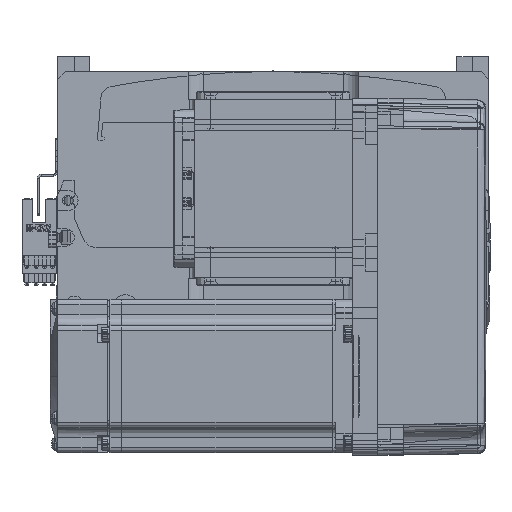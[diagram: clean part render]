
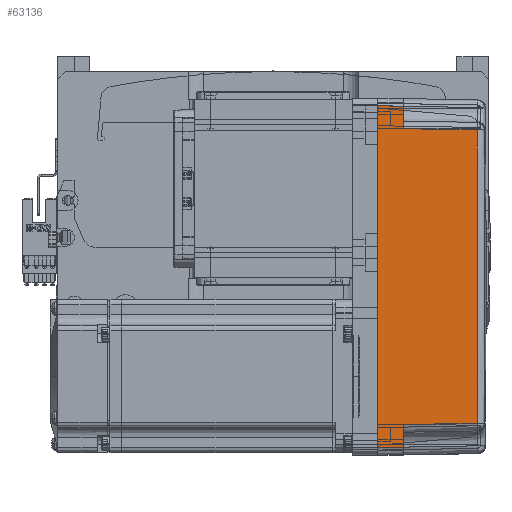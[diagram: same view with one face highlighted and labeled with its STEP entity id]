
A CAD part, top view. The second image highlights one B-rep face of the part: STEP entity #63136.
In plain terms, the highlighted planar face has unit normal (0.018, 0, 1) as drawn and (0, 1, 0.017) by its records, which use the part's own axes.
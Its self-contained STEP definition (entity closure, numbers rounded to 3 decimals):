
#444 = EDGE_CURVE ( 'NONE', #39464, #17093, #22523, .T. ) ;
#648 = CARTESIAN_POINT ( 'NONE',  ( -57.495, 35.32, 38.985 ) ) ;
#3036 = DIRECTION ( 'NONE',  ( -0.017, -0.017, 1. ) ) ;
#4314 = CARTESIAN_POINT ( 'NONE',  ( 70., 36., 0. ) ) ;
#4991 = EDGE_CURVE ( 'NONE', #17093, #53466, #72497, .T. ) ;
#6280 = CARTESIAN_POINT ( 'NONE',  ( -19.165, 35.316, 39.181 ) ) ;
#13021 = CARTESIAN_POINT ( 'NONE',  ( 70., 35.825, 10. ) ) ;
#14419 = CARTESIAN_POINT ( 'NONE',  ( -58., 35.825, 10. ) ) ;
#14837 = CARTESIAN_POINT ( 'NONE',  ( -67., 36., 0. ) ) ;
#15936 = VECTOR ( 'NONE', #42486, 1000. ) ;
#16078 = VERTEX_POINT ( 'NONE', #38914 ) ;
#17093 = VERTEX_POINT ( 'NONE', #14419 ) ;
#19478 = AXIS2_PLACEMENT_3D ( 'NONE', #4314, #51010, #56936 ) ;
#20076 = EDGE_LOOP ( 'NONE', ( #29377, #50298, #38541, #57426, #21435, #40104, #65807, #32395 ) ) ;
#21435 = ORIENTED_EDGE ( 'NONE', *, *, #57089, .T. ) ;
#22523 = LINE ( 'NONE', #13021, #58125 ) ;
#22895 = VECTOR ( 'NONE', #32667, 1000. ) ;
#22976 = VERTEX_POINT ( 'NONE', #57605 ) ;
#24780 = CARTESIAN_POINT ( 'NONE',  ( -66.826, 35.825, 10. ) ) ;
#24905 = CARTESIAN_POINT ( 'NONE',  ( -58., 35.825, 10. ) ) ;
#25223 = EDGE_CURVE ( 'NONE', #22976, #38179, #38419, .T. ) ;
#25919 = DIRECTION ( 'NONE',  ( 0.017, -0.017, 1. ) ) ;
#27756 = CARTESIAN_POINT ( 'NONE',  ( 0., 36., 0. ) ) ;
#29377 = ORIENTED_EDGE ( 'NONE', *, *, #52469, .T. ) ;
#29606 = CARTESIAN_POINT ( 'NONE',  ( 19.165, 35.316, 39.181 ) ) ;
#31150 = VERTEX_POINT ( 'NONE', #32817 ) ;
#32395 = ORIENTED_EDGE ( 'NONE', *, *, #25223, .F. ) ;
#32667 = DIRECTION ( 'NONE',  ( 1., 0., 0. ) ) ;
#32817 = CARTESIAN_POINT ( 'NONE',  ( 66.826, 35.825, 10. ) ) ;
#33313 = LINE ( 'NONE', #68591, #36940 ) ;
#34532 = LINE ( 'NONE', #49779, #47200 ) ;
#35554 = EDGE_CURVE ( 'NONE', #53466, #16078, #56121, .T. ) ;
#36105 = DIRECTION ( 'NONE',  ( 1., 0., 0. ) ) ;
#36940 = VECTOR ( 'NONE', #51501, 1000. ) ;
#37549 = CARTESIAN_POINT ( 'NONE',  ( 67.001, 36.001, -0.052 ) ) ;
#38179 = VERTEX_POINT ( 'NONE', #49029 ) ;
#38419 = LINE ( 'NONE', #27756, #22895 ) ;
#38541 = ORIENTED_EDGE ( 'NONE', *, *, #4991, .T. ) ;
#38914 = CARTESIAN_POINT ( 'NONE',  ( 57.495, 35.32, 38.985 ) ) ;
#39464 = VERTEX_POINT ( 'NONE', #24780 ) ;
#40104 = ORIENTED_EDGE ( 'NONE', *, *, #62821, .T. ) ;
#41805 = CARTESIAN_POINT ( 'NONE',  ( 57.495, 35.32, 38.985 ) ) ;
#42486 = DIRECTION ( 'NONE',  ( 0.017, -0.017, 1. ) ) ;
#44256 = CARTESIAN_POINT ( 'NONE',  ( 58., 35.825, 10. ) ) ;
#46264 = VECTOR ( 'NONE', #3036, 1000. ) ;
#46529 = CARTESIAN_POINT ( 'NONE',  ( -57.495, 35.32, 38.985 ) ) ;
#47200 = VECTOR ( 'NONE', #62295, 1000. ) ;
#49029 = CARTESIAN_POINT ( 'NONE',  ( 67., 36., 0. ) ) ;
#49779 = CARTESIAN_POINT ( 'NONE',  ( 70., 35.825, 10. ) ) ;
#50298 = ORIENTED_EDGE ( 'NONE', *, *, #444, .T. ) ;
#51010 = DIRECTION ( 'NONE',  ( 0., 1., 0.017 ) ) ;
#51269 = PLANE ( 'NONE',  #19478 ) ;
#51501 = DIRECTION ( 'NONE',  ( 0.017, 0.017, -1. ) ) ;
#52469 = EDGE_CURVE ( 'NONE', #22976, #39464, #71105, .T. ) ;
#53215 = VERTEX_POINT ( 'NONE', #44256 ) ;
#53466 = VERTEX_POINT ( 'NONE', #46529 ) ;
#53550 = FACE_OUTER_BOUND ( 'NONE', #20076, .T. ) ;
#56121 = B_SPLINE_CURVE_WITH_KNOTS ( 'NONE', 3,
 ( #648, #6280, #29606, #41805 ),
 .UNSPECIFIED., .F., .F.,
 ( 4, 4 ),
 ( 0., 1. ),
 .UNSPECIFIED. ) ;
#56936 = DIRECTION ( 'NONE',  ( 0., -0.017, 1. ) ) ;
#57089 = EDGE_CURVE ( 'NONE', #16078, #53215, #33313, .T. ) ;
#57426 = ORIENTED_EDGE ( 'NONE', *, *, #35554, .T. ) ;
#57605 = CARTESIAN_POINT ( 'NONE',  ( -67., 36., 0. ) ) ;
#58125 = VECTOR ( 'NONE', #36105, 1000. ) ;
#62295 = DIRECTION ( 'NONE',  ( 1., 0., 0. ) ) ;
#62821 = EDGE_CURVE ( 'NONE', #53215, #31150, #34532, .T. ) ;
#63032 = VECTOR ( 'NONE', #25919, 1000. ) ;
#63136 = ADVANCED_FACE ( 'NONE', ( #53550 ), #51269, .T. ) ;
#65807 = ORIENTED_EDGE ( 'NONE', *, *, #75700, .F. ) ;
#68173 = LINE ( 'NONE', #37549, #46264 ) ;
#68591 = CARTESIAN_POINT ( 'NONE',  ( 57.495, 35.32, 38.985 ) ) ;
#71105 = LINE ( 'NONE', #14837, #63032 ) ;
#72497 = LINE ( 'NONE', #24905, #15936 ) ;
#75700 = EDGE_CURVE ( 'NONE', #38179, #31150, #68173, .T. ) ;
